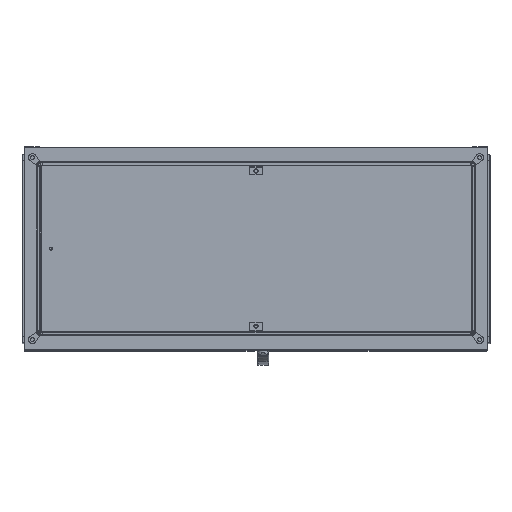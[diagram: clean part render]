
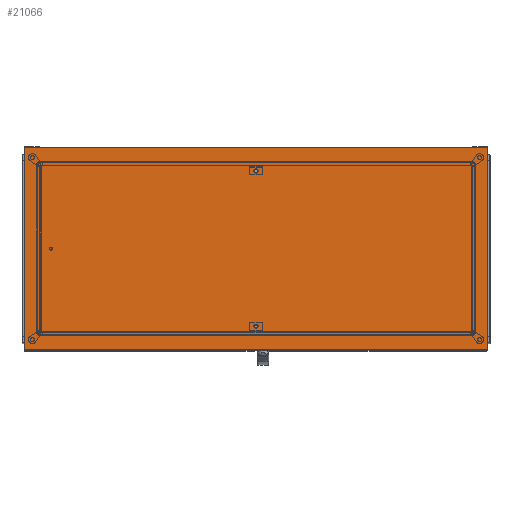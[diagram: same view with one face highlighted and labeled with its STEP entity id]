
A CAD part, top view. The second image highlights one B-rep face of the part: STEP entity #21066.
In plain terms, the highlighted planar face has unit normal (0, 0, 1) as drawn and (0, -1, 0) by its records, which use the part's own axes.
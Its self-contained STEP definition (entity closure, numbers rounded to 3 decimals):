
#1364=CIRCLE('',#22993,6.318);
#1365=CIRCLE('',#22994,6.318);
#6048=ORIENTED_EDGE('',*,*,#9968,.F.);
#6049=ORIENTED_EDGE('',*,*,#9981,.F.);
#6050=ORIENTED_EDGE('',*,*,#9927,.F.);
#6051=ORIENTED_EDGE('',*,*,#9974,.F.);
#6052=ORIENTED_EDGE('',*,*,#9988,.F.);
#6053=ORIENTED_EDGE('',*,*,#9989,.F.);
#9927=EDGE_CURVE('',#12233,#12234,#14279,.T.);
#9968=EDGE_CURVE('',#12268,#12269,#14309,.T.);
#9974=EDGE_CURVE('',#12269,#12233,#14314,.T.);
#9981=EDGE_CURVE('',#12234,#12268,#14321,.T.);
#9988=EDGE_CURVE('',#12282,#12282,#1364,.T.);
#9989=EDGE_CURVE('',#12283,#12283,#1365,.T.);
#12233=VERTEX_POINT('',#34709);
#12234=VERTEX_POINT('',#34711);
#12268=VERTEX_POINT('',#34789);
#12269=VERTEX_POINT('',#34791);
#12282=VERTEX_POINT('',#34827);
#12283=VERTEX_POINT('',#34829);
#14279=LINE('',#34710,#16348);
#14309=LINE('',#34790,#16378);
#14314=LINE('',#34802,#16383);
#14321=LINE('',#34814,#16390);
#16348=VECTOR('',#27973,1000.);
#16378=VECTOR('',#28033,1000.);
#16383=VECTOR('',#28042,1000.);
#16390=VECTOR('',#28051,1000.);
#17853=EDGE_LOOP('',(#6048,#6049,#6050,#6051));
#17854=EDGE_LOOP('',(#6052));
#17855=EDGE_LOOP('',(#6053));
#19156=FACE_BOUND('',#17853,.T.);
#19157=FACE_BOUND('',#17854,.T.);
#19158=FACE_BOUND('',#17855,.T.);
#20026=PLANE('',#22992);
#21066=ADVANCED_FACE('',(#19156,#19157,#19158),#20026,.F.);
#22992=AXIS2_PLACEMENT_3D('',#34825,#28058,#28059);
#22993=AXIS2_PLACEMENT_3D('',#34826,#28060,#28061);
#22994=AXIS2_PLACEMENT_3D('',#34828,#28062,#28063);
#27973=DIRECTION('',(1.,0.,0.));
#28033=DIRECTION('',(-1.,0.,0.));
#28042=DIRECTION('',(0.,0.,1.));
#28051=DIRECTION('',(0.,0.,-1.));
#28058=DIRECTION('',(0.,1.,0.));
#28059=DIRECTION('',(0.,0.,1.));
#28060=DIRECTION('',(0.,-1.,0.));
#28061=DIRECTION('',(0.,0.,-1.));
#28062=DIRECTION('',(0.,-1.,0.));
#28063=DIRECTION('',(0.,0.,-1.));
#34709=CARTESIAN_POINT('',(-699.5,0.,305.5));
#34710=CARTESIAN_POINT('',(-699.5,0.,305.5));
#34711=CARTESIAN_POINT('',(699.5,0.,305.5));
#34789=CARTESIAN_POINT('',(699.5,0.,-305.5));
#34790=CARTESIAN_POINT('',(699.5,0.,-305.5));
#34791=CARTESIAN_POINT('',(-699.5,0.,-305.5));
#34802=CARTESIAN_POINT('',(-699.5,0.,-305.5));
#34814=CARTESIAN_POINT('',(699.5,0.,305.5));
#34825=CARTESIAN_POINT('',(0.,0.,0.));
#34826=CARTESIAN_POINT('',(0.,0.,234.));
#34827=CARTESIAN_POINT('',(0.,0.,227.682));
#34828=CARTESIAN_POINT('',(0.,0.,-234.));
#34829=CARTESIAN_POINT('',(0.,0.,-240.318));
